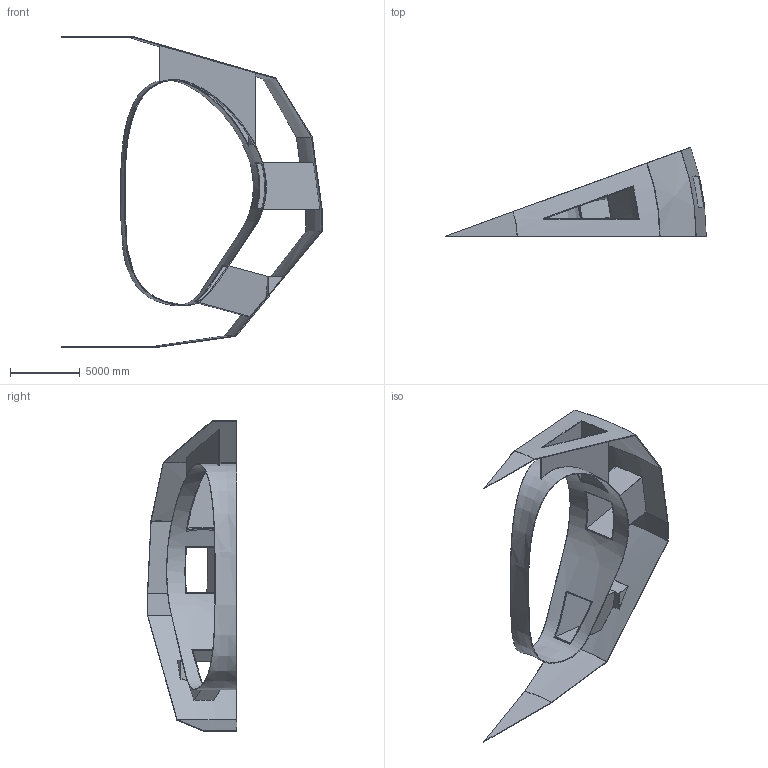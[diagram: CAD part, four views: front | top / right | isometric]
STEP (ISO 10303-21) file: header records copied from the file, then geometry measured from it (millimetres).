
FILE_DESCRIPTION(('FreeCAD Model'),'2;1');
FILE_NAME('Open CASCADE Shape Model','2026-10-11T08:36:59',('Bluemira'), ('Bluemira'),'Open CASCADE STEP processor 7.8','FreeCAD','Unknown');
FILE_SCHEMA(('AP242_MANAGED_MODEL_BASED_3D_ENGINEERING_MIM_LF. {1 0 10303 442 1 1 4 }'));
Length unit declared in the file: metre
Products named in the file (3): Unnamed; VVTS_1_1; Cryostat_TS_1_1
Assembly tree (2 placements, depth 2):
  Unnamed
    VVTS_1_1
    Cryostat_TS_1_1
Bounding box: 18713.47 x 6400.38 x 22317.88 mm (x, y, z)
Volume: 21728092038 mm3; surface area: 842504571.2 mm2
Topology: 2 solids, 2 shells, 87 faces, 232 edges, 155 vertices
Faces by surface type: plane 67, cone 13, revolution 5, cylinder 2
Entity records: 28995 total; most frequent: CARTESIAN_POINT 24682, DIRECTION 690, ORIENTED_EDGE 464, PCURVE 464, DEFINITIONAL_REPRESENTATION 464, LINE 345, VECTOR 345, EDGE_CURVE 232
